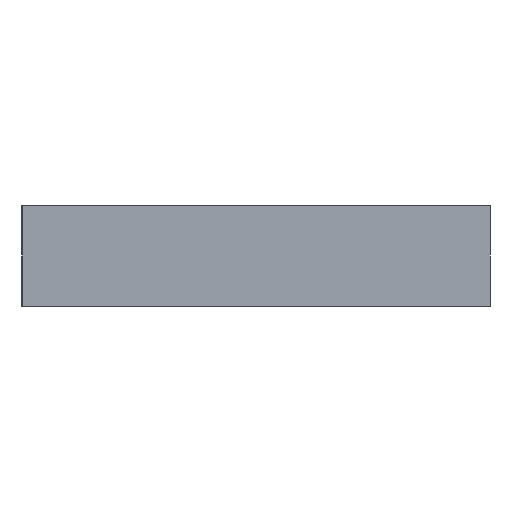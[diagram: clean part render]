
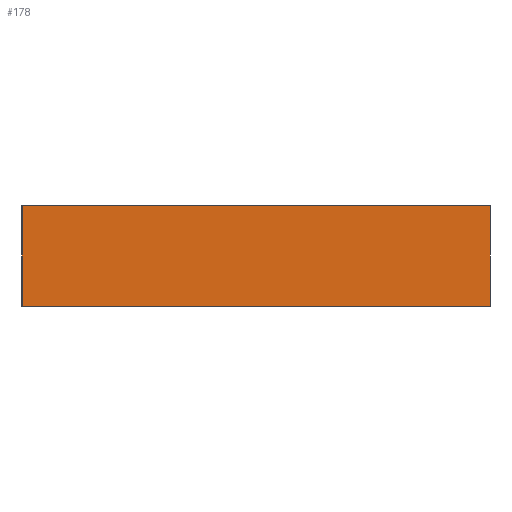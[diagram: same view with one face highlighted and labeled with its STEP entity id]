
A CAD part, front view. The second image highlights one B-rep face of the part: STEP entity #178.
In plain terms, the highlighted planar face has unit normal (0, -1, 0).
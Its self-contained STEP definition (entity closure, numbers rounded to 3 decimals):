
#151 = VERTEX_POINT ( 'NONE', #367 ) ;
#158 = VERTEX_POINT ( 'NONE', #325 ) ;
#175 = EDGE_CURVE ( 'NONE', #229, #158, #317, .T. ) ;
#178 = ADVANCED_FACE ( 'NONE', ( #289 ), #299, .T. ) ;
#179 = ORIENTED_EDGE ( 'NONE', *, *, #224, .F. ) ;
#180 = ORIENTED_EDGE ( 'NONE', *, *, #204, .F. ) ;
#181 = ORIENTED_EDGE ( 'NONE', *, *, #175, .T. ) ;
#182 = ORIENTED_EDGE ( 'NONE', *, *, #228, .T. ) ;
#204 = EDGE_CURVE ( 'NONE', #151, #158, #383, .T. ) ;
#223 = VERTEX_POINT ( 'NONE', #399 ) ;
#224 = EDGE_CURVE ( 'NONE', #223, #151, #398, .T. ) ;
#228 = EDGE_CURVE ( 'NONE', #223, #229, #391, .T. ) ;
#229 = VERTEX_POINT ( 'NONE', #418 ) ;
#230 = EDGE_LOOP ( 'NONE', ( #180, #179, #182, #181 ) ) ;
#278 = DIRECTION ( 'NONE',  ( 0., 0., -1. ) ) ;
#283 = AXIS2_PLACEMENT_3D ( 'NONE', #285, #286, #278 ) ;
#284 = DIRECTION ( 'NONE',  ( 0., 0., 1. ) ) ;
#285 = CARTESIAN_POINT ( 'NONE',  ( 0., -608.5, -3. ) ) ;
#286 = DIRECTION ( 'NONE',  ( 0., -1., 0. ) ) ;
#289 = FACE_OUTER_BOUND ( 'NONE', #230, .T. ) ;
#297 = VECTOR ( 'NONE', #284, 1000. ) ;
#298 = CARTESIAN_POINT ( 'NONE',  ( 14., -608.5, -3. ) ) ;
#299 = PLANE ( 'NONE',  #283 ) ;
#317 = LINE ( 'NONE', #298, #297 ) ;
#325 = CARTESIAN_POINT ( 'NONE',  ( 14., -608.5, 0. ) ) ;
#367 = CARTESIAN_POINT ( 'NONE',  ( 0., -608.5, 0. ) ) ;
#379 = DIRECTION ( 'NONE',  ( 1., 0., 0. ) ) ;
#383 = LINE ( 'NONE', #402, #411 ) ;
#390 = CARTESIAN_POINT ( 'NONE',  ( 0., -608.5, -3. ) ) ;
#391 = LINE ( 'NONE', #390, #416 ) ;
#397 = CARTESIAN_POINT ( 'NONE',  ( 0., -608.5, -3. ) ) ;
#398 = LINE ( 'NONE', #397, #407 ) ;
#399 = CARTESIAN_POINT ( 'NONE',  ( 0., -608.5, -3. ) ) ;
#402 = CARTESIAN_POINT ( 'NONE',  ( 0., -608.5, 0. ) ) ;
#406 = DIRECTION ( 'NONE',  ( 0., 0., 1. ) ) ;
#407 = VECTOR ( 'NONE', #406, 1000. ) ;
#411 = VECTOR ( 'NONE', #379, 1000. ) ;
#415 = DIRECTION ( 'NONE',  ( 1., 0., 0. ) ) ;
#416 = VECTOR ( 'NONE', #415, 1000. ) ;
#418 = CARTESIAN_POINT ( 'NONE',  ( 14., -608.5, -3. ) ) ;
